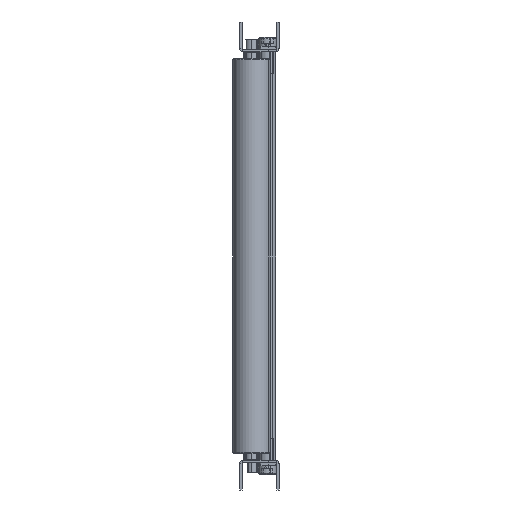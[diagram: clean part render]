
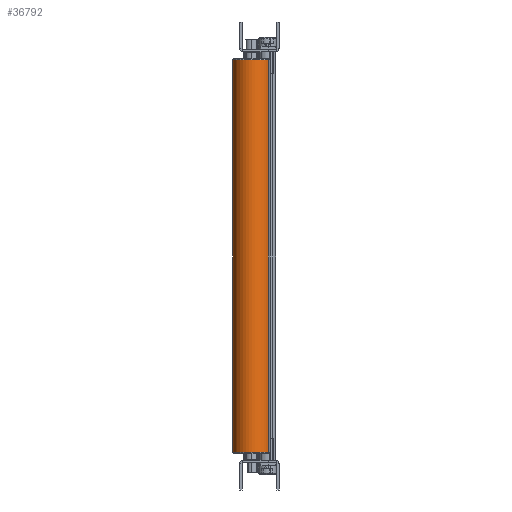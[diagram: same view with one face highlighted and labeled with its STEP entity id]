
A CAD part, left-side view. The second image highlights one B-rep face of the part: STEP entity #36792.
In plain terms, the highlighted cylindrical face has radius 19.05 mm (diameter 38.1 mm), a partial arc.
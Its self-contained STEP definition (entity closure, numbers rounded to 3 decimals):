
#2516 = DIRECTION ( 'NONE',  ( -0.481, -0.877, 0. ) ) ;
#2734 = ORIENTED_EDGE ( 'NONE', *, *, #10045, .F. ) ;
#3082 = LINE ( 'NONE', #26085, #15106 ) ;
#3089 = EDGE_CURVE ( 'NONE', #23654, #6570, #30489, .T. ) ;
#3695 = CARTESIAN_POINT ( 'NONE',  ( -2008.524, 276.058, -622.3 ) ) ;
#4626 = EDGE_CURVE ( 'NONE', #15003, #23654, #3082, .T. ) ;
#4750 = ORIENTED_EDGE ( 'NONE', *, *, #3089, .T. ) ;
#5691 = CARTESIAN_POINT ( 'NONE',  ( -1999.364, 292.762, -273.759 ) ) ;
#6570 = VERTEX_POINT ( 'NONE', #36230 ) ;
#6699 = DIRECTION ( 'NONE',  ( -0.481, -0.877, 0. ) ) ;
#8535 = ORIENTED_EDGE ( 'NONE', *, *, #4626, .T. ) ;
#9250 = VERTEX_POINT ( 'NONE', #21530 ) ;
#10045 = EDGE_CURVE ( 'NONE', #9250, #6570, #11851, .T. ) ;
#10110 = EDGE_LOOP ( 'NONE', ( #34390, #8535, #4750, #2734 ) ) ;
#11851 = LINE ( 'NONE', #21246, #25987 ) ;
#14458 = EDGE_CURVE ( 'NONE', #9250, #15003, #33689, .T. ) ;
#15003 = VERTEX_POINT ( 'NONE', #27857 ) ;
#15106 = VECTOR ( 'NONE', #23071, 1000. ) ;
#21246 = CARTESIAN_POINT ( 'NONE',  ( -2017.683, 259.355, -622.3 ) ) ;
#21530 = CARTESIAN_POINT ( 'NONE',  ( -2017.683, 259.355, 124.241 ) ) ;
#23059 = DIRECTION ( 'NONE',  ( 0., 0., -1. ) ) ;
#23071 = DIRECTION ( 'NONE',  ( 0., 0., -1. ) ) ;
#23462 = AXIS2_PLACEMENT_3D ( 'NONE', #31726, #23059, #2516 ) ;
#23654 = VERTEX_POINT ( 'NONE', #5691 ) ;
#23669 = CARTESIAN_POINT ( 'NONE',  ( -2008.524, 276.058, -273.759 ) ) ;
#23712 = DIRECTION ( 'NONE',  ( 0., 0., -1. ) ) ;
#25987 = VECTOR ( 'NONE', #23712, 1000. ) ;
#26085 = CARTESIAN_POINT ( 'NONE',  ( -1999.364, 292.762, -622.3 ) ) ;
#26507 = DIRECTION ( 'NONE',  ( 0., 0., 1. ) ) ;
#27503 = AXIS2_PLACEMENT_3D ( 'NONE', #23669, #26507, #32698 ) ;
#27602 = AXIS2_PLACEMENT_3D ( 'NONE', #3695, #32544, #6699 ) ;
#27857 = CARTESIAN_POINT ( 'NONE',  ( -1999.364, 292.762, 124.241 ) ) ;
#29541 = CYLINDRICAL_SURFACE ( 'NONE', #27602, 19.05 ) ;
#30489 = CIRCLE ( 'NONE', #27503, 19.05 ) ;
#31726 = CARTESIAN_POINT ( 'NONE',  ( -2008.524, 276.058, 124.241 ) ) ;
#32544 = DIRECTION ( 'NONE',  ( 0., 0., -1. ) ) ;
#32698 = DIRECTION ( 'NONE',  ( 0.481, 0.877, 0. ) ) ;
#33689 = CIRCLE ( 'NONE', #23462, 19.05 ) ;
#34390 = ORIENTED_EDGE ( 'NONE', *, *, #14458, .T. ) ;
#35397 = FACE_OUTER_BOUND ( 'NONE', #10110, .T. ) ;
#36230 = CARTESIAN_POINT ( 'NONE',  ( -2017.683, 259.355, -273.759 ) ) ;
#36792 = ADVANCED_FACE ( 'NONE', ( #35397 ), #29541, .T. ) ;
